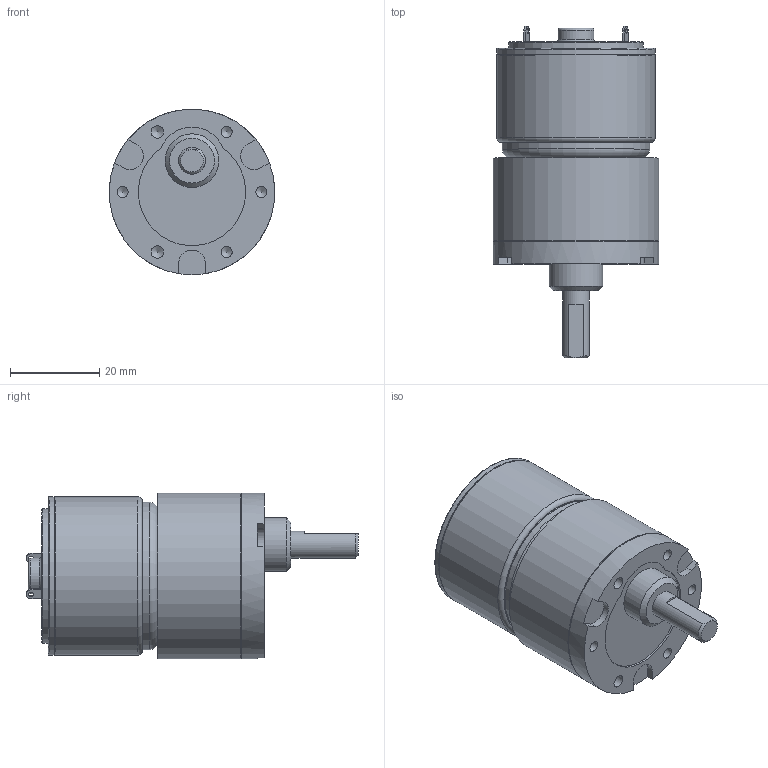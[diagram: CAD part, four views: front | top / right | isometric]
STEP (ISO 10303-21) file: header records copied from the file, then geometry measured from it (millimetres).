
FILE_DESCRIPTION((''),'2;1');
FILE_NAME('C:\Documents and Settings\SSEGAWA\デスクトップ\TP-3526E-KS-3.STP','2013-07-09T16:50:24',('SSEGAWA'),(''),'Autodesk Inventor 2010','Autodesk Inventor 2010','');
FILE_SCHEMA(('CONFIG_CONTROL_DESIGN'));
Length unit declared in the file: millimetre
Products named in the file (3): tp_3526e_ks_3; ks_3; tp_3526e
Assembly tree (2 placements, depth 2):
  tp_3526e_ks_3
    ks_3
    tp_3526e
Bounding box: 37 x 74.2 x 37 mm (x, y, z)
Volume: 51011.4 mm3; surface area: 10878 mm2
Topology: 3 solids, 3 shells, 91 faces, 203 edges, 133 vertices
Faces by surface type: plane 38, cylinder 23, bspline 22, torus 5, cone 3
Full cylindrical faces by diameter (mm): 1.1 x1, 2 x1, 2.4 x1, 5 x1, 6 x1, 8 x1, 10 x1, 12 x1, 30 x1, 33 x1, 35 x1, 35.4 x2, 36.6 x1, 37 x2
Entity records: 2560 total; most frequent: CARTESIAN_POINT 798, DIRECTION 363, ORIENTED_EDGE 268, AXIS2_PLACEMENT_3D 157, EDGE_LOOP 155, EDGE_CURVE 134, VERTEX_POINT 109, FACE_OUTER_BOUND 91
